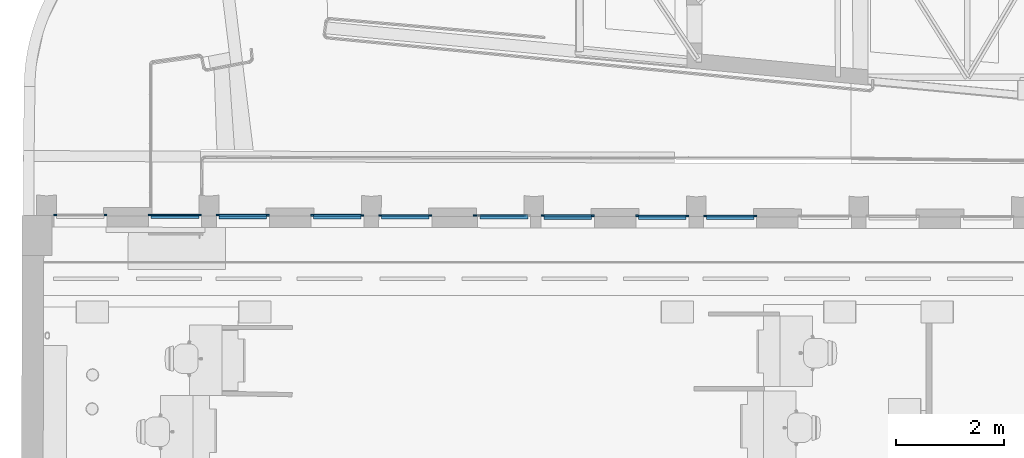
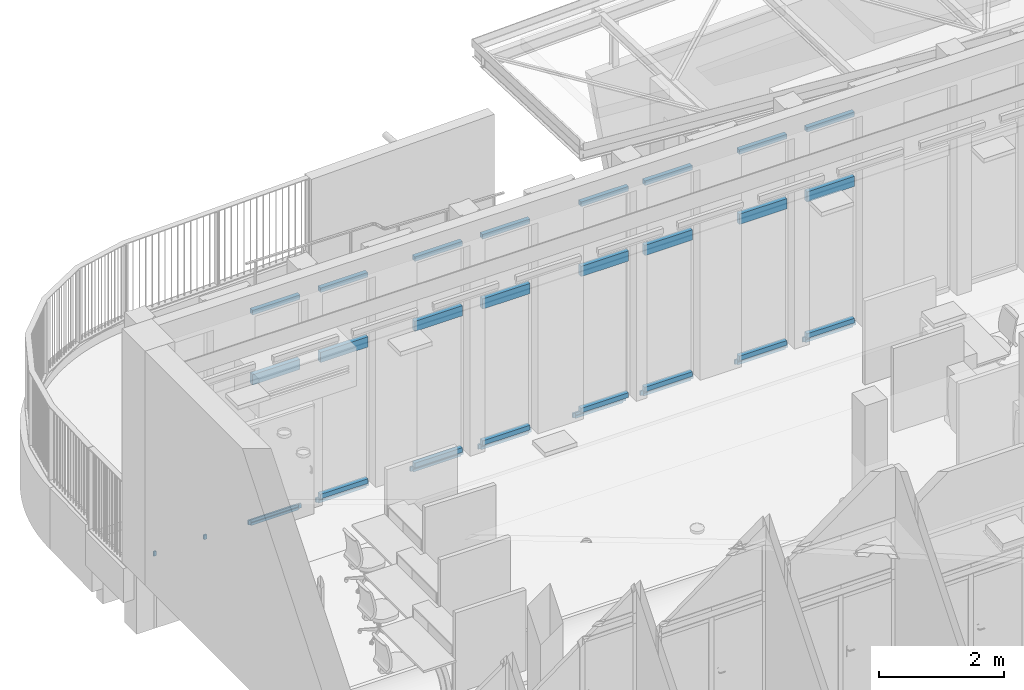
# One storey, part 16 of 128: 57 members, 17 elements without a shape of their own.
"""IFC2X3 building model written with IfcOpenShell, lengths in metres."""

from ifc_helpers import new_model, entity, si_unit, converted_unit, derived_unit, direction, frame, origin, origin_2d_with_axis, place, context, subcontext, project, spatial, rectangle, extrude, source, transform, mapped, material, type_object, type_shapes, element, aggregate, save


model = new_model("IFC2X3")

# Units and contexts
model_context = context("Model", 3, precision=1e-05, world=origin(), true_north=direction((6.123031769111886e-17, 1.0)))
body_context = subcontext(model_context, "Body", "Model", "MODEL_VIEW")
ifc_project = project(units=[si_unit("LENGTHUNIT", "METRE"), si_unit("AREAUNIT", "SQUARE_METRE"), converted_unit("PLANEANGLEUNIT", "DEGREE", entity("IfcPlaneAngleMeasure", 0.017453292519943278), si_unit("PLANEANGLEUNIT", "RADIAN"), dimensions=[0, 0, 0, 0, 0, 0, 0]), derived_unit("THERMALTRANSMITTANCEUNIT", [(si_unit("MASSUNIT", "GRAM", prefix="KILO"), 1), (si_unit("THERMODYNAMICTEMPERATUREUNIT", "KELVIN"), -1), (si_unit("TIMEUNIT", "SECOND"), -3)])], contexts=[model_context])

# Site, building, storey
site_placement = place(None, origin())
site = spatial("IfcSite", under=ifc_project, at=site_placement, Name="Default", CompositionType="ELEMENT")
building_placement = place(site_placement, origin())
building = spatial("IfcBuilding", under=site, at=building_placement, CompositionType="ELEMENT")
storey_placement = place(building_placement, origin())
storey = spatial("IfcBuildingStorey", under=building, at=storey_placement, Name="00_RDC CAF", CompositionType="ELEMENT", Elevation=2.4982504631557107e-13)

# Curtain wall, member
curtain_wall_type_1 = type_object("IfcCurtainWallType", Name="Mur-rideau:FRi.Ext.30mm RDC", PredefinedType="NOTDEFINED")
curtain_wall_1_placement = place(storey_placement, origin())
curtain_wall_1 = element("IfcCurtainWall", 1, at=curtain_wall_1_placement, inside=storey, type_object=curtain_wall_type_1, Name="Mur-rideau:FRi.Ext.30mm RDC", ObjectType="Mur-rideau:FRi.Ext.30mm RDC")
ifc_material = material(Name="ARC - M.Ex - Blanc")
member_type_1 = type_object("IfcMemberType", Name="Meneau rectangulaire:F.Ri.M_Ext_Rectangulaire_200x80mm", PredefinedType="MULLION", material=ifc_material)
shared_shape_1 = source(origin(), body_context, "Body", "SweptSolid", [
    extrude(rectangle(XDim=0.2, YDim=0.07999999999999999, at=origin_2d_with_axis()), frame((0.0, 0.025, -0.8799999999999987), z_axis=(0.0, 0.0, 1.0), x_axis=(-1.0, 0.0, 0.0)), (0.0, 0.0, 1.0), 0.8799999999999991),
])
type_shapes(member_type_1, [shared_shape_1])
member_1_placement = place(curtain_wall_1_placement, frame((10.815998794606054, 144.17716356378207, 2.7689999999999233), z_axis=(1.0, 0.0, 0.0), x_axis=(0.0, 0.0, 1.0)))
member_1 = element("IfcMember", 2, at=member_1_placement, type_object=member_type_1, material=ifc_material, Name="Meneau rectangulaire:F.Ri.M_Ext_Rectangulaire_200x80mm", ObjectType="Meneau rectangulaire:F.Ri.M_Ext_Rectangulaire_200x80mm", context=body_context, shape_type="MappedRepresentation", body=[
    mapped(shared_shape_1, transform((0.0, 0.0, 0.0), scale=1.0)),
])

curtain_wall_2_placement = place(storey_placement, origin())
curtain_wall_2 = element("IfcCurtainWall", 3, at=curtain_wall_2_placement, inside=storey, type_object=curtain_wall_type_1, Name="Mur-rideau:FRi.Ext.30mm RDC", ObjectType="Mur-rideau:FRi.Ext.30mm RDC")
member_2_placement = place(curtain_wall_2_placement, frame((9.562417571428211, 144.17913506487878, 2.7689999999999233), z_axis=(1.0, 0.0, 0.0), x_axis=(0.0, 0.0, 1.0)))
member_2 = element("IfcMember", 4, at=member_2_placement, type_object=member_type_1, material=ifc_material, Name="Meneau rectangulaire:F.Ri.M_Ext_Rectangulaire_200x80mm", ObjectType="Meneau rectangulaire:F.Ri.M_Ext_Rectangulaire_200x80mm", context=body_context, shape_type="MappedRepresentation", body=[
    mapped(shared_shape_1, transform((0.0, 0.0, 0.0), scale=1.0)),
])

curtain_wall_3_placement = place(storey_placement, origin())
curtain_wall_3 = element("IfcCurtainWall", 5, at=curtain_wall_3_placement, inside=storey, type_object=curtain_wall_type_1, Name="Mur-rideau:FRi.Ext.30mm RDC", ObjectType="Mur-rideau:FRi.Ext.30mm RDC")
member_3_placement = place(curtain_wall_3_placement, frame((12.56237075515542, 144.17441705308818, 2.7689999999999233), z_axis=(1.0, 0.0, 0.0), x_axis=(0.0, 0.0, 1.0)))
member_3 = element("IfcMember", 6, at=member_3_placement, type_object=member_type_1, material=ifc_material, Name="Meneau rectangulaire:F.Ri.M_Ext_Rectangulaire_200x80mm", ObjectType="Meneau rectangulaire:F.Ri.M_Ext_Rectangulaire_200x80mm", context=body_context, shape_type="MappedRepresentation", body=[
    mapped(shared_shape_1, transform((0.0, 0.0, 0.0), scale=1.0)),
])

curtain_wall_4_placement = place(storey_placement, origin())
curtain_wall_4 = element("IfcCurtainWall", 7, at=curtain_wall_4_placement, inside=storey, type_object=curtain_wall_type_1, Name="Mur-rideau:FRi.Ext.30mm RDC", ObjectType="Mur-rideau:FRi.Ext.30mm RDC")
member_4_placement = place(curtain_wall_4_placement, frame((13.81603233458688, 144.1724454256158, 2.7689999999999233), z_axis=(1.0, 0.0, 0.0), x_axis=(0.0, 0.0, 1.0)))
member_4 = element("IfcMember", 8, at=member_4_placement, type_object=member_type_1, material=ifc_material, Name="Meneau rectangulaire:F.Ri.M_Ext_Rectangulaire_200x80mm", ObjectType="Meneau rectangulaire:F.Ri.M_Ext_Rectangulaire_200x80mm", context=body_context, shape_type="MappedRepresentation", body=[
    mapped(shared_shape_1, transform((0.0, 0.0, 0.0), scale=1.0)),
])

curtain_wall_5_placement = place(storey_placement, origin())
curtain_wall_5 = element("IfcCurtainWall", 9, at=curtain_wall_5_placement, inside=storey, type_object=curtain_wall_type_1, Name="Mur-rideau:FRi.Ext.30mm RDC", ObjectType="Mur-rideau:FRi.Ext.30mm RDC")
member_5_placement = place(curtain_wall_5_placement, frame((15.637702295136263, 144.16969891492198, 2.7689999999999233), z_axis=(1.0, 0.0, 0.0), x_axis=(0.0, 0.0, 1.0)))
member_5 = element("IfcMember", 10, at=member_5_placement, type_object=member_type_1, material=ifc_material, Name="Meneau rectangulaire:F.Ri.M_Ext_Rectangulaire_200x80mm", ObjectType="Meneau rectangulaire:F.Ri.M_Ext_Rectangulaire_200x80mm", context=body_context, shape_type="MappedRepresentation", body=[
    mapped(shared_shape_1, transform((0.0, 0.0, 0.0), scale=1.0)),
])

curtain_wall_6_placement = place(storey_placement, origin())
curtain_wall_6 = element("IfcCurtainWall", 11, at=curtain_wall_6_placement, inside=storey, type_object=curtain_wall_type_1, Name="Mur-rideau:FRi.Ext.30mm RDC", ObjectType="Mur-rideau:FRi.Ext.30mm RDC")
member_6_placement = place(curtain_wall_6_placement, frame((16.816025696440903, 144.1677273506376, 2.7689999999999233), z_axis=(1.0, 0.0, 0.0), x_axis=(0.0, 0.0, 1.0)))
member_6 = element("IfcMember", 12, at=member_6_placement, type_object=member_type_1, material=ifc_material, Name="Meneau rectangulaire:F.Ri.M_Ext_Rectangulaire_200x80mm", ObjectType="Meneau rectangulaire:F.Ri.M_Ext_Rectangulaire_200x80mm", context=body_context, shape_type="MappedRepresentation", body=[
    mapped(shared_shape_1, transform((0.0, 0.0, 0.0), scale=1.0)),
])

curtain_wall_7_placement = place(storey_placement, origin())
curtain_wall_7 = element("IfcCurtainWall", 13, at=curtain_wall_7_placement, inside=storey, type_object=curtain_wall_type_1, Name="Mur-rideau:FRi.Ext.30mm RDC", ObjectType="Mur-rideau:FRi.Ext.30mm RDC")
member_7_placement = place(curtain_wall_7_placement, frame((18.56239765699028, 144.16498083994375, 2.7689999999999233), z_axis=(1.0, 0.0, 0.0), x_axis=(0.0, 0.0, 1.0)))
member_7 = element("IfcMember", 14, at=member_7_placement, type_object=member_type_1, material=ifc_material, Name="Meneau rectangulaire:F.Ri.M_Ext_Rectangulaire_200x80mm", ObjectType="Meneau rectangulaire:F.Ri.M_Ext_Rectangulaire_200x80mm", context=body_context, shape_type="MappedRepresentation", body=[
    mapped(shared_shape_1, transform((0.0, 0.0, 0.0), scale=1.0)),
])

curtain_wall_8_placement = place(storey_placement, origin())
curtain_wall_8 = element("IfcCurtainWall", 15, at=curtain_wall_8_placement, inside=storey, type_object=curtain_wall_type_1, Name="Mur-rideau:FRi.Ext.30mm RDC", ObjectType="Mur-rideau:FRi.Ext.30mm RDC")
member_8_placement = place(curtain_wall_8_placement, frame((19.81601905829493, 144.16300927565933, 2.7689999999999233), z_axis=(1.0, 0.0, 0.0), x_axis=(0.0, 0.0, 1.0)))
member_8 = element("IfcMember", 16, at=member_8_placement, type_object=member_type_1, material=ifc_material, Name="Meneau rectangulaire:F.Ri.M_Ext_Rectangulaire_200x80mm", ObjectType="Meneau rectangulaire:F.Ri.M_Ext_Rectangulaire_200x80mm", context=body_context, shape_type="MappedRepresentation", body=[
    mapped(shared_shape_1, transform((0.0, 0.0, 0.0), scale=1.0)),
])

# Member
member_type_2 = type_object("IfcMemberType", Name="Meneau rectangulaire:F.Ri.M_Ext_Rectangulaire_90x80mm", PredefinedType="MULLION", material=ifc_material)
shared_shape_2 = source(origin(), body_context, "Body", "SweptSolid", [
    extrude(rectangle(XDim=0.09, YDim=0.07999999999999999, at=origin_2d_with_axis()), frame((-0.045, 0.025, -0.8799999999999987), z_axis=(0.0, 0.0, 1.0), x_axis=(-1.0, 0.0, 0.0)), (0.0, 0.0, 1.0), 0.8799999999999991),
])
type_shapes(member_type_2, [shared_shape_2])
member_9_placement = place(curtain_wall_1_placement, frame((10.815998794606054, 144.17716356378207, 4.127999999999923), z_axis=(1.0, 0.0, 0.0), x_axis=(0.0, 0.0, 1.0)))
member_9 = element("IfcMember", 17, at=member_9_placement, type_object=member_type_2, material=ifc_material, Name="Meneau rectangulaire:F.Ri.M_Ext_Rectangulaire_90x80mm", ObjectType="Meneau rectangulaire:F.Ri.M_Ext_Rectangulaire_90x80mm", context=body_context, shape_type="MappedRepresentation", body=[
    mapped(shared_shape_2, transform((0.0, 0.0, 0.0), scale=1.0)),
])

member_10_placement = place(curtain_wall_2_placement, frame((9.562417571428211, 144.17913506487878, 4.127999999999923), z_axis=(1.0, 0.0, 0.0), x_axis=(0.0, 0.0, 1.0)))
member_10 = element("IfcMember", 18, at=member_10_placement, type_object=member_type_2, material=ifc_material, Name="Meneau rectangulaire:F.Ri.M_Ext_Rectangulaire_90x80mm", ObjectType="Meneau rectangulaire:F.Ri.M_Ext_Rectangulaire_90x80mm", context=body_context, shape_type="MappedRepresentation", body=[
    mapped(shared_shape_2, transform((0.0, 0.0, 0.0), scale=1.0)),
])

aggregate(curtain_wall_2, [member_2, member_10])

member_11_placement = place(curtain_wall_3_placement, frame((12.56237075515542, 144.17441705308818, 4.127999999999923), z_axis=(1.0, 0.0, 0.0), x_axis=(0.0, 0.0, 1.0)))
member_11 = element("IfcMember", 19, at=member_11_placement, type_object=member_type_2, material=ifc_material, Name="Meneau rectangulaire:F.Ri.M_Ext_Rectangulaire_90x80mm", ObjectType="Meneau rectangulaire:F.Ri.M_Ext_Rectangulaire_90x80mm", context=body_context, shape_type="MappedRepresentation", body=[
    mapped(shared_shape_2, transform((0.0, 0.0, 0.0), scale=1.0)),
])

member_12_placement = place(curtain_wall_4_placement, frame((13.81603233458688, 144.1724454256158, 4.127999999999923), z_axis=(1.0, 0.0, 0.0), x_axis=(0.0, 0.0, 1.0)))
member_12 = element("IfcMember", 20, at=member_12_placement, type_object=member_type_2, material=ifc_material, Name="Meneau rectangulaire:F.Ri.M_Ext_Rectangulaire_90x80mm", ObjectType="Meneau rectangulaire:F.Ri.M_Ext_Rectangulaire_90x80mm", context=body_context, shape_type="MappedRepresentation", body=[
    mapped(shared_shape_2, transform((0.0, 0.0, 0.0), scale=1.0)),
])

member_13_placement = place(curtain_wall_5_placement, frame((15.637702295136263, 144.16969891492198, 4.127999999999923), z_axis=(1.0, 0.0, 0.0), x_axis=(0.0, 0.0, 1.0)))
member_13 = element("IfcMember", 21, at=member_13_placement, type_object=member_type_2, material=ifc_material, Name="Meneau rectangulaire:F.Ri.M_Ext_Rectangulaire_90x80mm", ObjectType="Meneau rectangulaire:F.Ri.M_Ext_Rectangulaire_90x80mm", context=body_context, shape_type="MappedRepresentation", body=[
    mapped(shared_shape_2, transform((0.0, 0.0, 0.0), scale=1.0)),
])

member_14_placement = place(curtain_wall_6_placement, frame((16.816025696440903, 144.1677273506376, 4.127999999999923), z_axis=(1.0, 0.0, 0.0), x_axis=(0.0, 0.0, 1.0)))
member_14 = element("IfcMember", 22, at=member_14_placement, type_object=member_type_2, material=ifc_material, Name="Meneau rectangulaire:F.Ri.M_Ext_Rectangulaire_90x80mm", ObjectType="Meneau rectangulaire:F.Ri.M_Ext_Rectangulaire_90x80mm", context=body_context, shape_type="MappedRepresentation", body=[
    mapped(shared_shape_2, transform((0.0, 0.0, 0.0), scale=1.0)),
])

member_15_placement = place(curtain_wall_7_placement, frame((18.56239765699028, 144.16498083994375, 4.127999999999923), z_axis=(1.0, 0.0, 0.0), x_axis=(0.0, 0.0, 1.0)))
member_15 = element("IfcMember", 23, at=member_15_placement, type_object=member_type_2, material=ifc_material, Name="Meneau rectangulaire:F.Ri.M_Ext_Rectangulaire_90x80mm", ObjectType="Meneau rectangulaire:F.Ri.M_Ext_Rectangulaire_90x80mm", context=body_context, shape_type="MappedRepresentation", body=[
    mapped(shared_shape_2, transform((0.0, 0.0, 0.0), scale=1.0)),
])

member_16_placement = place(curtain_wall_8_placement, frame((19.81601905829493, 144.16300927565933, 4.127999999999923), z_axis=(1.0, 0.0, 0.0), x_axis=(0.0, 0.0, 1.0)))
member_16 = element("IfcMember", 24, at=member_16_placement, type_object=member_type_2, material=ifc_material, Name="Meneau rectangulaire:F.Ri.M_Ext_Rectangulaire_90x80mm", ObjectType="Meneau rectangulaire:F.Ri.M_Ext_Rectangulaire_90x80mm", context=body_context, shape_type="MappedRepresentation", body=[
    mapped(shared_shape_2, transform((0.0, 0.0, 0.0), scale=1.0)),
])

member_type_3 = type_object("IfcMemberType", Name="Meneau rectangulaire:F.Ri.M_Ext_Rectangulaire_90x80mm", PredefinedType="MULLION", material=ifc_material)
shared_shape_3 = source(origin(), body_context, "Body", "SweptSolid", [
    extrude(rectangle(XDim=0.09, YDim=0.07999999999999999, at=origin_2d_with_axis()), frame((-0.045, 0.025, -0.8799999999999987), z_axis=(0.0, 0.0, 1.0), x_axis=(-1.0, 0.0, 0.0)), (0.0, 0.0, 1.0), 0.8799999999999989),
])
type_shapes(member_type_3, [shared_shape_3])
member_17_placement = place(curtain_wall_1_placement, frame((9.935999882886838, 144.17854753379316, 0.0), z_axis=(-1.0, 0.0, 0.0), x_axis=(0.0, 0.0, -1.0)))
member_17 = element("IfcMember", 25, at=member_17_placement, type_object=member_type_3, material=ifc_material, Name="Meneau rectangulaire:F.Ri.M_Ext_Rectangulaire_90x80mm", ObjectType="Meneau rectangulaire:F.Ri.M_Ext_Rectangulaire_90x80mm", context=body_context, shape_type="MappedRepresentation", body=[
    mapped(shared_shape_3, transform((0.0, 0.0, 0.0), scale=1.0)),
])

aggregate(curtain_wall_1, [member_1, member_9, member_17])

member_18_placement = place(curtain_wall_3_placement, frame((11.682371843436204, 144.17580102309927, 0.0), z_axis=(-1.0, 0.0, 0.0), x_axis=(0.0, 0.0, -1.0)))
member_18 = element("IfcMember", 26, at=member_18_placement, type_object=member_type_3, material=ifc_material, Name="Meneau rectangulaire:F.Ri.M_Ext_Rectangulaire_90x80mm", ObjectType="Meneau rectangulaire:F.Ri.M_Ext_Rectangulaire_90x80mm", context=body_context, shape_type="MappedRepresentation", body=[
    mapped(shared_shape_3, transform((0.0, 0.0, 0.0), scale=1.0)),
])

aggregate(curtain_wall_3, [member_3, member_11, member_18])

member_19_placement = place(curtain_wall_4_placement, frame((12.936033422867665, 144.17382939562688, 0.0), z_axis=(-1.0, 0.0, 0.0), x_axis=(0.0, 0.0, -1.0)))
member_19 = element("IfcMember", 27, at=member_19_placement, type_object=member_type_3, material=ifc_material, Name="Meneau rectangulaire:F.Ri.M_Ext_Rectangulaire_90x80mm", ObjectType="Meneau rectangulaire:F.Ri.M_Ext_Rectangulaire_90x80mm", context=body_context, shape_type="MappedRepresentation", body=[
    mapped(shared_shape_3, transform((0.0, 0.0, 0.0), scale=1.0)),
])

aggregate(curtain_wall_4, [member_4, member_12, member_19])

member_20_placement = place(curtain_wall_5_placement, frame((14.757703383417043, 144.17108288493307, 0.0), z_axis=(-1.0, 0.0, 0.0), x_axis=(0.0, 0.0, -1.0)))
member_20 = element("IfcMember", 28, at=member_20_placement, type_object=member_type_3, material=ifc_material, Name="Meneau rectangulaire:F.Ri.M_Ext_Rectangulaire_90x80mm", ObjectType="Meneau rectangulaire:F.Ri.M_Ext_Rectangulaire_90x80mm", context=body_context, shape_type="MappedRepresentation", body=[
    mapped(shared_shape_3, transform((0.0, 0.0, 0.0), scale=1.0)),
])

aggregate(curtain_wall_5, [member_5, member_13, member_20])

member_21_placement = place(curtain_wall_6_placement, frame((15.936026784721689, 144.16911132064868, 0.0), z_axis=(-1.0, 0.0, 0.0), x_axis=(0.0, 0.0, -1.0)))
member_21 = element("IfcMember", 29, at=member_21_placement, type_object=member_type_3, material=ifc_material, Name="Meneau rectangulaire:F.Ri.M_Ext_Rectangulaire_90x80mm", ObjectType="Meneau rectangulaire:F.Ri.M_Ext_Rectangulaire_90x80mm", context=body_context, shape_type="MappedRepresentation", body=[
    mapped(shared_shape_3, transform((0.0, 0.0, 0.0), scale=1.0)),
])

aggregate(curtain_wall_6, [member_6, member_14, member_21])

member_22_placement = place(curtain_wall_7_placement, frame((17.682398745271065, 144.16636480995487, 0.0), z_axis=(-1.0, 0.0, 0.0), x_axis=(0.0, 0.0, -1.0)))
member_22 = element("IfcMember", 30, at=member_22_placement, type_object=member_type_3, material=ifc_material, Name="Meneau rectangulaire:F.Ri.M_Ext_Rectangulaire_90x80mm", ObjectType="Meneau rectangulaire:F.Ri.M_Ext_Rectangulaire_90x80mm", context=body_context, shape_type="MappedRepresentation", body=[
    mapped(shared_shape_3, transform((0.0, 0.0, 0.0), scale=1.0)),
])

aggregate(curtain_wall_7, [member_7, member_15, member_22])

member_23_placement = place(curtain_wall_8_placement, frame((18.93602014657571, 144.16439324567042, 0.0), z_axis=(-1.0, 0.0, 0.0), x_axis=(0.0, 0.0, -1.0)))
member_23 = element("IfcMember", 31, at=member_23_placement, type_object=member_type_3, material=ifc_material, Name="Meneau rectangulaire:F.Ri.M_Ext_Rectangulaire_90x80mm", ObjectType="Meneau rectangulaire:F.Ri.M_Ext_Rectangulaire_90x80mm", context=body_context, shape_type="MappedRepresentation", body=[
    mapped(shared_shape_3, transform((0.0, 0.0, 0.0), scale=1.0)),
])

aggregate(curtain_wall_8, [member_8, member_16, member_23])

# Curtain wall, member
curtain_wall_type_2 = type_object("IfcCurtainWallType", Name="Mur-rideau:FRi.Ext.30mm Etages", PredefinedType="NOTDEFINED")
curtain_wall_9_placement = place(storey_placement, origin())
curtain_wall_9 = element("IfcCurtainWall", 32, at=curtain_wall_9_placement, inside=storey, type_object=curtain_wall_type_2, Name="Mur-rideau:FRi.Ext.30mm Etages", ObjectType="Mur-rideau:FRi.Ext.30mm Etages")
member_type_4 = type_object("IfcMemberType", Name="Meneau rectangulaire:F.Ri.M_Ext_Rectangulaire_50x30mm", PredefinedType="MULLION", material=ifc_material)
shared_shape_4 = source(origin(), body_context, "Body", "SweptSolid", [
    extrude(rectangle(XDim=0.05, YDim=0.029999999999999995, at=origin_2d_with_axis()), frame((0.0, 0.0, -0.8800000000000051), z_axis=(0.0, 0.0, 1.0), x_axis=(-1.0, 0.0, 0.0)), (0.0, 0.0, 1.0), 0.8800000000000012),
])
type_shapes(member_type_4, [shared_shape_4])
member_24_placement = place(curtain_wall_9_placement, frame((10.815998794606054, 144.17716356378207, -0.087000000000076), z_axis=(1.0, 0.0, 0.0), x_axis=(0.0, 0.0, 1.0)))
member_24 = element("IfcMember", 33, at=member_24_placement, type_object=member_type_4, material=ifc_material, Name="Meneau rectangulaire:F.Ri.M_Ext_Rectangulaire_50x30mm", ObjectType="Meneau rectangulaire:F.Ri.M_Ext_Rectangulaire_50x30mm", context=body_context, shape_type="MappedRepresentation", body=[
    mapped(shared_shape_4, transform((0.0, 0.0, 0.0), scale=1.0)),
])

curtain_wall_10_placement = place(storey_placement, origin())
curtain_wall_10 = element("IfcCurtainWall", 34, at=curtain_wall_10_placement, inside=storey, type_object=curtain_wall_type_2, Name="Mur-rideau:FRi.Ext.30mm Etages", ObjectType="Mur-rideau:FRi.Ext.30mm Etages")
member_25_placement = place(curtain_wall_10_placement, frame((13.816032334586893, 144.17244542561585, -0.087000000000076), z_axis=(1.0, 0.0, 0.0), x_axis=(0.0, 0.0, 1.0)))
member_25 = element("IfcMember", 35, at=member_25_placement, type_object=member_type_4, material=ifc_material, Name="Meneau rectangulaire:F.Ri.M_Ext_Rectangulaire_50x30mm", ObjectType="Meneau rectangulaire:F.Ri.M_Ext_Rectangulaire_50x30mm", context=body_context, shape_type="MappedRepresentation", body=[
    mapped(shared_shape_4, transform((0.0, 0.0, 0.0), scale=1.0)),
])

curtain_wall_11_placement = place(storey_placement, origin())
curtain_wall_11 = element("IfcCurtainWall", 36, at=curtain_wall_11_placement, inside=storey, type_object=curtain_wall_type_2, Name="Mur-rideau:FRi.Ext.30mm Etages", ObjectType="Mur-rideau:FRi.Ext.30mm Etages")
member_26_placement = place(curtain_wall_11_placement, frame((16.816025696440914, 144.16772735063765, -0.087000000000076), z_axis=(1.0, 0.0, 0.0), x_axis=(0.0, 0.0, 1.0)))
member_26 = element("IfcMember", 37, at=member_26_placement, type_object=member_type_4, material=ifc_material, Name="Meneau rectangulaire:F.Ri.M_Ext_Rectangulaire_50x30mm", ObjectType="Meneau rectangulaire:F.Ri.M_Ext_Rectangulaire_50x30mm", context=body_context, shape_type="MappedRepresentation", body=[
    mapped(shared_shape_4, transform((0.0, 0.0, 0.0), scale=1.0)),
])

curtain_wall_12_placement = place(storey_placement, origin())
curtain_wall_12 = element("IfcCurtainWall", 38, at=curtain_wall_12_placement, inside=storey, type_object=curtain_wall_type_2, Name="Mur-rideau:FRi.Ext.30mm Etages", ObjectType="Mur-rideau:FRi.Ext.30mm Etages")
member_27_placement = place(curtain_wall_12_placement, frame((19.81601905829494, 144.16300927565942, -0.087000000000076), z_axis=(1.0, 0.0, 0.0), x_axis=(0.0, 0.0, 1.0)))
member_27 = element("IfcMember", 39, at=member_27_placement, type_object=member_type_4, material=ifc_material, Name="Meneau rectangulaire:F.Ri.M_Ext_Rectangulaire_50x30mm", ObjectType="Meneau rectangulaire:F.Ri.M_Ext_Rectangulaire_50x30mm", context=body_context, shape_type="MappedRepresentation", body=[
    mapped(shared_shape_4, transform((0.0, 0.0, 0.0), scale=1.0)),
])

# Member
member_type_5 = type_object("IfcMemberType", Name="Meneau rectangulaire:F.Ri.M_Ext_Rectangulaire_50x30mm", PredefinedType="MULLION", material=ifc_material)
shared_shape_5 = source(origin(), body_context, "Body", "SweptSolid", [
    extrude(rectangle(XDim=0.05, YDim=0.03, at=origin_2d_with_axis()), frame((-0.025, 0.0, -0.8800000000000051), z_axis=(0.0, 0.0, 1.0), x_axis=(-1.0, 0.0, 0.0)), (0.0, 0.0, 1.0), 0.8800000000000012),
])
type_shapes(member_type_5, [shared_shape_5])
member_28_placement = place(curtain_wall_9_placement, frame((10.815998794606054, 144.17716356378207, 0.0), z_axis=(1.0, 0.0, 0.0), x_axis=(0.0, 0.0, 1.0)))
member_28 = element("IfcMember", 40, at=member_28_placement, type_object=member_type_5, material=ifc_material, Name="Meneau rectangulaire:F.Ri.M_Ext_Rectangulaire_50x30mm", ObjectType="Meneau rectangulaire:F.Ri.M_Ext_Rectangulaire_50x30mm", context=body_context, shape_type="MappedRepresentation", body=[
    mapped(shared_shape_5, transform((0.0, 0.0, 0.0), scale=1.0)),
])

member_29_placement = place(curtain_wall_10_placement, frame((13.816032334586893, 144.17244542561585, 0.0), z_axis=(1.0, 0.0, 0.0), x_axis=(0.0, 0.0, 1.0)))
member_29 = element("IfcMember", 41, at=member_29_placement, type_object=member_type_5, material=ifc_material, Name="Meneau rectangulaire:F.Ri.M_Ext_Rectangulaire_50x30mm", ObjectType="Meneau rectangulaire:F.Ri.M_Ext_Rectangulaire_50x30mm", context=body_context, shape_type="MappedRepresentation", body=[
    mapped(shared_shape_5, transform((0.0, 0.0, 0.0), scale=1.0)),
])

member_30_placement = place(curtain_wall_11_placement, frame((16.816025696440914, 144.16772735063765, 0.0), z_axis=(1.0, 0.0, 0.0), x_axis=(0.0, 0.0, 1.0)))
member_30 = element("IfcMember", 42, at=member_30_placement, type_object=member_type_5, material=ifc_material, Name="Meneau rectangulaire:F.Ri.M_Ext_Rectangulaire_50x30mm", ObjectType="Meneau rectangulaire:F.Ri.M_Ext_Rectangulaire_50x30mm", context=body_context, shape_type="MappedRepresentation", body=[
    mapped(shared_shape_5, transform((0.0, 0.0, 0.0), scale=1.0)),
])

member_31_placement = place(curtain_wall_12_placement, frame((19.81601905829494, 144.16300927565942, 0.0), z_axis=(1.0, 0.0, 0.0), x_axis=(0.0, 0.0, 1.0)))
member_31 = element("IfcMember", 43, at=member_31_placement, type_object=member_type_5, material=ifc_material, Name="Meneau rectangulaire:F.Ri.M_Ext_Rectangulaire_50x30mm", ObjectType="Meneau rectangulaire:F.Ri.M_Ext_Rectangulaire_50x30mm", context=body_context, shape_type="MappedRepresentation", body=[
    mapped(shared_shape_5, transform((0.0, 0.0, 0.0), scale=1.0)),
])

member_type_6 = type_object("IfcMemberType", Name="Meneau rectangulaire:F.Ri.M_Ext_Rectangulaire_50x30mm", PredefinedType="MULLION", material=ifc_material)
shared_shape_6 = source(origin(), body_context, "Body", "SweptSolid", [
    extrude(rectangle(XDim=0.05, YDim=0.03, at=origin_2d_with_axis()), frame((-0.025, 0.0, -0.08700000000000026), z_axis=(0.0, 0.0, 1.0), x_axis=(-1.0, 0.0, 0.0)), (0.0, 0.0, 1.0), 0.08700000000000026),
])
type_shapes(member_type_6, [shared_shape_6])
member_32_placement = place(curtain_wall_9_placement, frame((10.865998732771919, 144.17708492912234, -0.087000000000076), z_axis=(0.0, 0.0, -1.0), x_axis=(1.0, 0.0, 0.0)))
member_32 = element("IfcMember", 44, at=member_32_placement, type_object=member_type_6, material=ifc_material, Name="Meneau rectangulaire:F.Ri.M_Ext_Rectangulaire_50x30mm", ObjectType="Meneau rectangulaire:F.Ri.M_Ext_Rectangulaire_50x30mm", context=body_context, shape_type="MappedRepresentation", body=[
    mapped(shared_shape_6, transform((0.0, 0.0, 0.0), scale=1.0)),
])

# Curtain wall, member
curtain_wall_13_placement = place(storey_placement, origin())
curtain_wall_13 = element("IfcCurtainWall", 45, at=curtain_wall_13_placement, inside=storey, type_object=curtain_wall_type_2, Name="Mur-rideau:FRi.Ext.30mm Etages", ObjectType="Mur-rideau:FRi.Ext.30mm Etages")
member_33_placement = place(curtain_wall_13_placement, frame((7.866045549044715, 144.18180294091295, -0.087000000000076), z_axis=(0.0, 0.0, -1.0), x_axis=(1.0, 0.0, 0.0)))
member_33 = element("IfcMember", 46, at=member_33_placement, type_object=member_type_6, material=ifc_material, Name="Meneau rectangulaire:F.Ri.M_Ext_Rectangulaire_50x30mm", ObjectType="Meneau rectangulaire:F.Ri.M_Ext_Rectangulaire_50x30mm", context=body_context, shape_type="MappedRepresentation", body=[
    mapped(shared_shape_6, transform((0.0, 0.0, 0.0), scale=1.0)),
])

# Member
member_34_placement = place(curtain_wall_10_placement, frame((13.866032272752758, 144.17236679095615, -0.087000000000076), z_axis=(0.0, 0.0, -1.0), x_axis=(1.0, 0.0, 0.0)))
member_34 = element("IfcMember", 47, at=member_34_placement, type_object=member_type_6, material=ifc_material, Name="Meneau rectangulaire:F.Ri.M_Ext_Rectangulaire_50x30mm", ObjectType="Meneau rectangulaire:F.Ri.M_Ext_Rectangulaire_50x30mm", context=body_context, shape_type="MappedRepresentation", body=[
    mapped(shared_shape_6, transform((0.0, 0.0, 0.0), scale=1.0)),
])

member_35_placement = place(curtain_wall_11_placement, frame((16.86602563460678, 144.16764871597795, -0.087000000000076), z_axis=(0.0, 0.0, -1.0), x_axis=(1.0, 0.0, 0.0)))
member_35 = element("IfcMember", 48, at=member_35_placement, type_object=member_type_6, material=ifc_material, Name="Meneau rectangulaire:F.Ri.M_Ext_Rectangulaire_50x30mm", ObjectType="Meneau rectangulaire:F.Ri.M_Ext_Rectangulaire_50x30mm", context=body_context, shape_type="MappedRepresentation", body=[
    mapped(shared_shape_6, transform((0.0, 0.0, 0.0), scale=1.0)),
])

member_36_placement = place(curtain_wall_12_placement, frame((19.866018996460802, 144.1629306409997, -0.087000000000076), z_axis=(0.0, 0.0, -1.0), x_axis=(1.0, 0.0, 0.0)))
member_36 = element("IfcMember", 49, at=member_36_placement, type_object=member_type_6, material=ifc_material, Name="Meneau rectangulaire:F.Ri.M_Ext_Rectangulaire_50x30mm", ObjectType="Meneau rectangulaire:F.Ri.M_Ext_Rectangulaire_50x30mm", context=body_context, shape_type="MappedRepresentation", body=[
    mapped(shared_shape_6, transform((0.0, 0.0, 0.0), scale=1.0)),
])

member_type_7 = type_object("IfcMemberType", Name="Meneau rectangulaire:F.Ri.M_Ext_Rectangulaire_50x30mm", PredefinedType="MULLION", material=ifc_material)
shared_shape_7 = source(origin(), body_context, "Body", "SweptSolid", [
    extrude(rectangle(XDim=0.05, YDim=0.03, at=origin_2d_with_axis()), frame((-0.025, 0.0, -0.08700000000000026), z_axis=(0.0, 0.0, 1.0), x_axis=(-1.0, 0.0, 0.0)), (0.0, 0.0, 1.0), 0.08700000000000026),
])
type_shapes(member_type_7, [shared_shape_7])
member_37_placement = place(curtain_wall_9_placement, frame((9.885999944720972, 144.17862616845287, 0.0), z_axis=(0.0, 0.0, 1.0), x_axis=(-1.0, 0.0, 0.0)))
member_37 = element("IfcMember", 50, at=member_37_placement, type_object=member_type_7, material=ifc_material, Name="Meneau rectangulaire:F.Ri.M_Ext_Rectangulaire_50x30mm", ObjectType="Meneau rectangulaire:F.Ri.M_Ext_Rectangulaire_50x30mm", context=body_context, shape_type="MappedRepresentation", body=[
    mapped(shared_shape_7, transform((0.0, 0.0, 0.0), scale=1.0)),
])

aggregate(curtain_wall_9, [member_24, member_28, member_32, member_37])

member_38_placement = place(curtain_wall_13_placement, frame((6.886046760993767, 144.18334418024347, 0.0), z_axis=(0.0, 0.0, 1.0), x_axis=(-1.0, 0.0, 0.0)))
member_38 = element("IfcMember", 51, at=member_38_placement, type_object=member_type_7, material=ifc_material, Name="Meneau rectangulaire:F.Ri.M_Ext_Rectangulaire_50x30mm", ObjectType="Meneau rectangulaire:F.Ri.M_Ext_Rectangulaire_50x30mm", context=body_context, shape_type="MappedRepresentation", body=[
    mapped(shared_shape_7, transform((0.0, 0.0, 0.0), scale=1.0)),
])

aggregate(curtain_wall_13, [member_33, member_38])

member_39_placement = place(curtain_wall_10_placement, frame((12.886033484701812, 144.17390803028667, 0.0), z_axis=(0.0, 0.0, 1.0), x_axis=(-1.0, 0.0, 0.0)))
member_39 = element("IfcMember", 52, at=member_39_placement, type_object=member_type_7, material=ifc_material, Name="Meneau rectangulaire:F.Ri.M_Ext_Rectangulaire_50x30mm", ObjectType="Meneau rectangulaire:F.Ri.M_Ext_Rectangulaire_50x30mm", context=body_context, shape_type="MappedRepresentation", body=[
    mapped(shared_shape_7, transform((0.0, 0.0, 0.0), scale=1.0)),
])

aggregate(curtain_wall_10, [member_25, member_29, member_34, member_39])

member_40_placement = place(curtain_wall_11_placement, frame((15.886026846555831, 144.16918995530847, 0.0), z_axis=(0.0, 0.0, 1.0), x_axis=(-1.0, 0.0, 0.0)))
member_40 = element("IfcMember", 53, at=member_40_placement, type_object=member_type_7, material=ifc_material, Name="Meneau rectangulaire:F.Ri.M_Ext_Rectangulaire_50x30mm", ObjectType="Meneau rectangulaire:F.Ri.M_Ext_Rectangulaire_50x30mm", context=body_context, shape_type="MappedRepresentation", body=[
    mapped(shared_shape_7, transform((0.0, 0.0, 0.0), scale=1.0)),
])

aggregate(curtain_wall_11, [member_26, member_30, member_35, member_40])

member_41_placement = place(curtain_wall_12_placement, frame((18.886020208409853, 144.1644718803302, 0.0), z_axis=(0.0, 0.0, 1.0), x_axis=(-1.0, 0.0, 0.0)))
member_41 = element("IfcMember", 54, at=member_41_placement, type_object=member_type_7, material=ifc_material, Name="Meneau rectangulaire:F.Ri.M_Ext_Rectangulaire_50x30mm", ObjectType="Meneau rectangulaire:F.Ri.M_Ext_Rectangulaire_50x30mm", context=body_context, shape_type="MappedRepresentation", body=[
    mapped(shared_shape_7, transform((0.0, 0.0, 0.0), scale=1.0)),
])

aggregate(curtain_wall_12, [member_27, member_31, member_36, member_41])

# Curtain wall, member
curtain_wall_14_placement = place(storey_placement, origin())
curtain_wall_14 = element("IfcCurtainWall", 55, at=curtain_wall_14_placement, inside=storey, type_object=curtain_wall_type_2, Name="Mur-rideau:FRi.Ext.30mm Etages", ObjectType="Mur-rideau:FRi.Ext.30mm Etages")
member_type_8 = type_object("IfcMemberType", Name="Meneau rectangulaire:F.Ri.M_Ext_Rectangulaire_50x30mm", PredefinedType="MULLION", material=ifc_material)
shared_shape_8 = source(origin(), body_context, "Body", "SweptSolid", [
    extrude(rectangle(XDim=0.05, YDim=0.03, at=origin_2d_with_axis()), frame((0.0, 0.0, -0.8800000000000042), z_axis=(0.0, 0.0, 1.0), x_axis=(-1.0, 0.0, 0.0)), (0.0, 0.0, 1.0), 0.8800000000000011),
])
type_shapes(member_type_8, [shared_shape_8])
member_42_placement = place(curtain_wall_14_placement, frame((11.682345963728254, 144.1758010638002, -0.087000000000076), z_axis=(-1.0, 0.0, 0.0), x_axis=(0.0, 0.0, 1.0)))
member_42 = element("IfcMember", 56, at=member_42_placement, type_object=member_type_8, material=ifc_material, Name="Meneau rectangulaire:F.Ri.M_Ext_Rectangulaire_50x30mm", ObjectType="Meneau rectangulaire:F.Ri.M_Ext_Rectangulaire_50x30mm", context=body_context, shape_type="MappedRepresentation", body=[
    mapped(shared_shape_8, transform((0.0, 0.0, 0.0), scale=1.0)),
])

curtain_wall_15_placement = place(storey_placement, origin())
curtain_wall_15 = element("IfcCurtainWall", 57, at=curtain_wall_15_placement, inside=storey, type_object=curtain_wall_type_2, Name="Mur-rideau:FRi.Ext.30mm Etages", ObjectType="Mur-rideau:FRi.Ext.30mm Etages")
member_43_placement = place(curtain_wall_15_placement, frame((8.682392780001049, 144.1805190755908, -0.087000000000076), z_axis=(-1.0, 0.0, 0.0), x_axis=(0.0, 0.0, 1.0)))
member_43 = element("IfcMember", 58, at=member_43_placement, type_object=member_type_8, material=ifc_material, Name="Meneau rectangulaire:F.Ri.M_Ext_Rectangulaire_50x30mm", ObjectType="Meneau rectangulaire:F.Ri.M_Ext_Rectangulaire_50x30mm", context=body_context, shape_type="MappedRepresentation", body=[
    mapped(shared_shape_8, transform((0.0, 0.0, 0.0), scale=1.0)),
])

curtain_wall_16_placement = place(storey_placement, origin())
curtain_wall_16 = element("IfcCurtainWall", 59, at=curtain_wall_16_placement, inside=storey, type_object=curtain_wall_type_2, Name="Mur-rideau:FRi.Ext.30mm Etages", ObjectType="Mur-rideau:FRi.Ext.30mm Etages")
member_44_placement = place(curtain_wall_16_placement, frame((14.682379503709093, 144.171082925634, -0.087000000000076), z_axis=(-1.0, 0.0, 0.0), x_axis=(0.0, 0.0, 1.0)))
member_44 = element("IfcMember", 60, at=member_44_placement, type_object=member_type_8, material=ifc_material, Name="Meneau rectangulaire:F.Ri.M_Ext_Rectangulaire_50x30mm", ObjectType="Meneau rectangulaire:F.Ri.M_Ext_Rectangulaire_50x30mm", context=body_context, shape_type="MappedRepresentation", body=[
    mapped(shared_shape_8, transform((0.0, 0.0, 0.0), scale=1.0)),
])

curtain_wall_17_placement = place(storey_placement, origin())
curtain_wall_17 = element("IfcCurtainWall", 61, at=curtain_wall_17_placement, inside=storey, type_object=curtain_wall_type_2, Name="Mur-rideau:FRi.Ext.30mm Etages", ObjectType="Mur-rideau:FRi.Ext.30mm Etages")
member_45_placement = place(curtain_wall_17_placement, frame((17.682372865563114, 144.1663648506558, -0.087000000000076), z_axis=(-1.0, 0.0, 0.0), x_axis=(0.0, 0.0, 1.0)))
member_45 = element("IfcMember", 62, at=member_45_placement, type_object=member_type_8, material=ifc_material, Name="Meneau rectangulaire:F.Ri.M_Ext_Rectangulaire_50x30mm", ObjectType="Meneau rectangulaire:F.Ri.M_Ext_Rectangulaire_50x30mm", context=body_context, shape_type="MappedRepresentation", body=[
    mapped(shared_shape_8, transform((0.0, 0.0, 0.0), scale=1.0)),
])

# Member
member_type_9 = type_object("IfcMemberType", Name="Meneau rectangulaire:F.Ri.M_Ext_Rectangulaire_50x30mm", PredefinedType="MULLION", material=ifc_material)
shared_shape_9 = source(origin(), body_context, "Body", "SweptSolid", [
    extrude(rectangle(XDim=0.05, YDim=0.03, at=origin_2d_with_axis()), frame((-0.025, 0.0, -0.8800000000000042), z_axis=(0.0, 0.0, 1.0), x_axis=(-1.0, 0.0, 0.0)), (0.0, 0.0, 1.0), 0.8800000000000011),
])
type_shapes(member_type_9, [shared_shape_9])
member_46_placement = place(curtain_wall_14_placement, frame((11.682345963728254, 144.1758010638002, 0.0), z_axis=(-1.0, 0.0, 0.0), x_axis=(0.0, 0.0, 1.0)))
member_46 = element("IfcMember", 63, at=member_46_placement, type_object=member_type_9, material=ifc_material, Name="Meneau rectangulaire:F.Ri.M_Ext_Rectangulaire_50x30mm", ObjectType="Meneau rectangulaire:F.Ri.M_Ext_Rectangulaire_50x30mm", context=body_context, shape_type="MappedRepresentation", body=[
    mapped(shared_shape_9, transform((0.0, 0.0, 0.0), scale=1.0)),
])

member_47_placement = place(curtain_wall_15_placement, frame((8.682392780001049, 144.1805190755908, 0.0), z_axis=(-1.0, 0.0, 0.0), x_axis=(0.0, 0.0, 1.0)))
member_47 = element("IfcMember", 64, at=member_47_placement, type_object=member_type_9, material=ifc_material, Name="Meneau rectangulaire:F.Ri.M_Ext_Rectangulaire_50x30mm", ObjectType="Meneau rectangulaire:F.Ri.M_Ext_Rectangulaire_50x30mm", context=body_context, shape_type="MappedRepresentation", body=[
    mapped(shared_shape_9, transform((0.0, 0.0, 0.0), scale=1.0)),
])

member_48_placement = place(curtain_wall_16_placement, frame((14.682379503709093, 144.171082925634, 0.0), z_axis=(-1.0, 0.0, 0.0), x_axis=(0.0, 0.0, 1.0)))
member_48 = element("IfcMember", 65, at=member_48_placement, type_object=member_type_9, material=ifc_material, Name="Meneau rectangulaire:F.Ri.M_Ext_Rectangulaire_50x30mm", ObjectType="Meneau rectangulaire:F.Ri.M_Ext_Rectangulaire_50x30mm", context=body_context, shape_type="MappedRepresentation", body=[
    mapped(shared_shape_9, transform((0.0, 0.0, 0.0), scale=1.0)),
])

member_49_placement = place(curtain_wall_17_placement, frame((17.682372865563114, 144.1663648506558, 0.0), z_axis=(-1.0, 0.0, 0.0), x_axis=(0.0, 0.0, 1.0)))
member_49 = element("IfcMember", 66, at=member_49_placement, type_object=member_type_9, material=ifc_material, Name="Meneau rectangulaire:F.Ri.M_Ext_Rectangulaire_50x30mm", ObjectType="Meneau rectangulaire:F.Ri.M_Ext_Rectangulaire_50x30mm", context=body_context, shape_type="MappedRepresentation", body=[
    mapped(shared_shape_9, transform((0.0, 0.0, 0.0), scale=1.0)),
])

member_type_10 = type_object("IfcMemberType", Name="Meneau rectangulaire:F.Ri.M_Ext_Rectangulaire_50x30mm", PredefinedType="MULLION", material=ifc_material)
shared_shape_10 = source(origin(), body_context, "Body", "SweptSolid", [
    extrude(rectangle(XDim=0.05, YDim=0.03, at=origin_2d_with_axis()), frame((-0.025, 0.0, -0.08700000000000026), z_axis=(0.0, 0.0, 1.0), x_axis=(-1.0, 0.0, 0.0)), (0.0, 0.0, 1.0), 0.08700000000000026),
])
type_shapes(member_type_10, [shared_shape_10])
member_50_placement = place(curtain_wall_14_placement, frame((11.63234602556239, 144.17587969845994, -0.087000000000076), z_axis=(0.0, 0.0, -1.0), x_axis=(-1.0, 0.0, 0.0)))
member_50 = element("IfcMember", 67, at=member_50_placement, type_object=member_type_10, material=ifc_material, Name="Meneau rectangulaire:F.Ri.M_Ext_Rectangulaire_50x30mm", ObjectType="Meneau rectangulaire:F.Ri.M_Ext_Rectangulaire_50x30mm", context=body_context, shape_type="MappedRepresentation", body=[
    mapped(shared_shape_10, transform((0.0, 0.0, 0.0), scale=1.0)),
])

member_51_placement = place(curtain_wall_15_placement, frame((8.632392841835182, 144.18059771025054, -0.087000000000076), z_axis=(0.0, 0.0, -1.0), x_axis=(-1.0, 0.0, 0.0)))
member_51 = element("IfcMember", 68, at=member_51_placement, type_object=member_type_10, material=ifc_material, Name="Meneau rectangulaire:F.Ri.M_Ext_Rectangulaire_50x30mm", ObjectType="Meneau rectangulaire:F.Ri.M_Ext_Rectangulaire_50x30mm", context=body_context, shape_type="MappedRepresentation", body=[
    mapped(shared_shape_10, transform((0.0, 0.0, 0.0), scale=1.0)),
])

member_52_placement = place(curtain_wall_16_placement, frame((14.632379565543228, 144.17116156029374, -0.087000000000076), z_axis=(0.0, 0.0, -1.0), x_axis=(-1.0, 0.0, 0.0)))
member_52 = element("IfcMember", 69, at=member_52_placement, type_object=member_type_10, material=ifc_material, Name="Meneau rectangulaire:F.Ri.M_Ext_Rectangulaire_50x30mm", ObjectType="Meneau rectangulaire:F.Ri.M_Ext_Rectangulaire_50x30mm", context=body_context, shape_type="MappedRepresentation", body=[
    mapped(shared_shape_10, transform((0.0, 0.0, 0.0), scale=1.0)),
])

member_53_placement = place(curtain_wall_17_placement, frame((17.63237292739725, 144.16644348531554, -0.087000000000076), z_axis=(0.0, 0.0, -1.0), x_axis=(-1.0, 0.0, 0.0)))
member_53 = element("IfcMember", 70, at=member_53_placement, type_object=member_type_10, material=ifc_material, Name="Meneau rectangulaire:F.Ri.M_Ext_Rectangulaire_50x30mm", ObjectType="Meneau rectangulaire:F.Ri.M_Ext_Rectangulaire_50x30mm", context=body_context, shape_type="MappedRepresentation", body=[
    mapped(shared_shape_10, transform((0.0, 0.0, 0.0), scale=1.0)),
])

member_type_11 = type_object("IfcMemberType", Name="Meneau rectangulaire:F.Ri.M_Ext_Rectangulaire_50x30mm", PredefinedType="MULLION", material=ifc_material)
shared_shape_11 = source(origin(), body_context, "Body", "SweptSolid", [
    extrude(rectangle(XDim=0.05, YDim=0.03, at=origin_2d_with_axis()), frame((-0.025, 0.0, -0.08700000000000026), z_axis=(0.0, 0.0, 1.0), x_axis=(-1.0, 0.0, 0.0)), (0.0, 0.0, 1.0), 0.08700000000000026),
])
type_shapes(member_type_11, [shared_shape_11])
member_54_placement = place(curtain_wall_14_placement, frame((12.612344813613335, 144.17433845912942, 0.0)))
member_54 = element("IfcMember", 71, at=member_54_placement, type_object=member_type_11, material=ifc_material, Name="Meneau rectangulaire:F.Ri.M_Ext_Rectangulaire_50x30mm", ObjectType="Meneau rectangulaire:F.Ri.M_Ext_Rectangulaire_50x30mm", context=body_context, shape_type="MappedRepresentation", body=[
    mapped(shared_shape_11, transform((0.0, 0.0, 0.0), scale=1.0)),
])

aggregate(curtain_wall_14, [member_42, member_46, member_50, member_54])

member_55_placement = place(curtain_wall_15_placement, frame((9.612391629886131, 144.17905647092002, 0.0)))
member_55 = element("IfcMember", 72, at=member_55_placement, type_object=member_type_11, material=ifc_material, Name="Meneau rectangulaire:F.Ri.M_Ext_Rectangulaire_50x30mm", ObjectType="Meneau rectangulaire:F.Ri.M_Ext_Rectangulaire_50x30mm", context=body_context, shape_type="MappedRepresentation", body=[
    mapped(shared_shape_11, transform((0.0, 0.0, 0.0), scale=1.0)),
])

aggregate(curtain_wall_15, [member_43, member_47, member_51, member_55])

member_56_placement = place(curtain_wall_16_placement, frame((15.612378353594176, 144.16962032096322, 0.0)))
member_56 = element("IfcMember", 73, at=member_56_placement, type_object=member_type_11, material=ifc_material, Name="Meneau rectangulaire:F.Ri.M_Ext_Rectangulaire_50x30mm", ObjectType="Meneau rectangulaire:F.Ri.M_Ext_Rectangulaire_50x30mm", context=body_context, shape_type="MappedRepresentation", body=[
    mapped(shared_shape_11, transform((0.0, 0.0, 0.0), scale=1.0)),
])

aggregate(curtain_wall_16, [member_44, member_48, member_52, member_56])

member_57_placement = place(curtain_wall_17_placement, frame((18.612371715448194, 144.16490224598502, 0.0)))
member_57 = element("IfcMember", 74, at=member_57_placement, type_object=member_type_11, material=ifc_material, Name="Meneau rectangulaire:F.Ri.M_Ext_Rectangulaire_50x30mm", ObjectType="Meneau rectangulaire:F.Ri.M_Ext_Rectangulaire_50x30mm", context=body_context, shape_type="MappedRepresentation", body=[
    mapped(shared_shape_11, transform((0.0, 0.0, 0.0), scale=1.0)),
])

aggregate(curtain_wall_17, [member_45, member_49, member_53, member_57])

save(model, "model.ifc")
